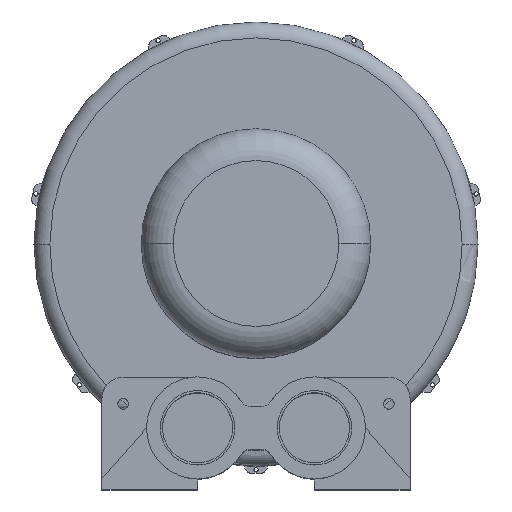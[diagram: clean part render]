
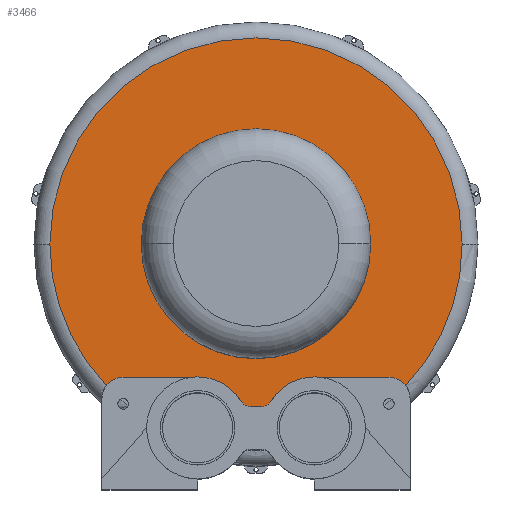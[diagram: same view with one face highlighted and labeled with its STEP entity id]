
A CAD part, top view. The second image highlights one B-rep face of the part: STEP entity #3466.
In plain terms, the highlighted planar face has unit normal (0, 0, 1).
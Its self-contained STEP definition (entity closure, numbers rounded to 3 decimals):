
#186 = DIRECTION ( 'NONE',  ( 0., 0., 1. ) ) ;
#288 = DIRECTION ( 'NONE',  ( 0., 0., 1. ) ) ;
#374 = DIRECTION ( 'NONE',  ( -1., 0., 0. ) ) ;
#396 = ORIENTED_EDGE ( 'NONE', *, *, #4098, .T. ) ;
#429 = FACE_OUTER_BOUND ( 'NONE', #1731, .T. ) ;
#436 = EDGE_CURVE ( 'NONE', #4498, #4835, #861, .T. ) ;
#453 = ORIENTED_EDGE ( 'NONE', *, *, #4588, .F. ) ;
#467 = CARTESIAN_POINT ( 'NONE',  ( 125., -125.5, 68. ) ) ;
#469 = CARTESIAN_POINT ( 'NONE',  ( -194., 0., 68. ) ) ;
#473 = CARTESIAN_POINT ( 'NONE',  ( 140.894, -133.36, 68. ) ) ;
#483 = ORIENTED_EDGE ( 'NONE', *, *, #4218, .F. ) ;
#615 = DIRECTION ( 'NONE',  ( 0., 0., 1. ) ) ;
#671 = VERTEX_POINT ( 'NONE', #925 ) ;
#678 = ORIENTED_EDGE ( 'NONE', *, *, #4475, .F. ) ;
#681 = CARTESIAN_POINT ( 'NONE',  ( -13.92, -148.672, 68. ) ) ;
#795 = CIRCLE ( 'NONE', #4136, 10. ) ;
#801 = CIRCLE ( 'NONE', #4908, 108. ) ;
#861 = CIRCLE ( 'NONE', #1310, 108. ) ;
#880 = AXIS2_PLACEMENT_3D ( 'NONE', #1025, #4106, #1790 ) ;
#922 = ORIENTED_EDGE ( 'NONE', *, *, #4284, .F. ) ;
#925 = CARTESIAN_POINT ( 'NONE',  ( 55., -125.5, 68. ) ) ;
#961 = CARTESIAN_POINT ( 'NONE',  ( 0., 0., 68. ) ) ;
#1017 = CARTESIAN_POINT ( 'NONE',  ( 5.361, -153.5, 68. ) ) ;
#1025 = CARTESIAN_POINT ( 'NONE',  ( 0., 0., 68. ) ) ;
#1053 = CARTESIAN_POINT ( 'NONE',  ( -55., -125.5, 68. ) ) ;
#1062 = DIRECTION ( 'NONE',  ( 0., 0., -1. ) ) ;
#1065 = CARTESIAN_POINT ( 'NONE',  ( 194., 0., 68. ) ) ;
#1156 = CARTESIAN_POINT ( 'NONE',  ( 125., -125.5, 68. ) ) ;
#1246 = VERTEX_POINT ( 'NONE', #467 ) ;
#1310 = AXIS2_PLACEMENT_3D ( 'NONE', #2897, #615, #3276 ) ;
#1330 = DIRECTION ( 'NONE',  ( 1., 0., 0. ) ) ;
#1338 = CARTESIAN_POINT ( 'NONE',  ( -140.894, -133.36, 68. ) ) ;
#1348 = CARTESIAN_POINT ( 'NONE',  ( -5.361, -143.5, 68. ) ) ;
#1438 = LINE ( 'NONE', #4865, #3357 ) ;
#1484 = DIRECTION ( 'NONE',  ( 0., 0., 1. ) ) ;
#1489 = LINE ( 'NONE', #2649, #2373 ) ;
#1529 = DIRECTION ( 'NONE',  ( -1., 0., 0. ) ) ;
#1576 = DIRECTION ( 'NONE',  ( 0., 0., 1. ) ) ;
#1649 = EDGE_LOOP ( 'NONE', ( #4851, #1797 ) ) ;
#1692 = AXIS2_PLACEMENT_3D ( 'NONE', #4314, #1986, #4726 ) ;
#1725 = DIRECTION ( 'NONE',  ( -1., 0., 0. ) ) ;
#1731 = EDGE_LOOP ( 'NONE', ( #396, #3943, #3304, #483, #922, #4663, #678, #2393, #453, #4510, #3855, #2216 ) ) ;
#1763 = DIRECTION ( 'NONE',  ( -1., 0., 0. ) ) ;
#1776 = VERTEX_POINT ( 'NONE', #473 ) ;
#1790 = DIRECTION ( 'NONE',  ( 1., 0., 0. ) ) ;
#1797 = ORIENTED_EDGE ( 'NONE', *, *, #436, .F. ) ;
#1820 = DIRECTION ( 'NONE',  ( 0., 0., 1. ) ) ;
#1846 = VECTOR ( 'NONE', #1529, 1000. ) ;
#1986 = DIRECTION ( 'NONE',  ( 0., 0., 1. ) ) ;
#2104 = VERTEX_POINT ( 'NONE', #469 ) ;
#2115 = DIRECTION ( 'NONE',  ( 0., 0., 1. ) ) ;
#2216 = ORIENTED_EDGE ( 'NONE', *, *, #4770, .F. ) ;
#2373 = VECTOR ( 'NONE', #374, 1000. ) ;
#2393 = ORIENTED_EDGE ( 'NONE', *, *, #4533, .F. ) ;
#2419 = VERTEX_POINT ( 'NONE', #2462 ) ;
#2429 = CARTESIAN_POINT ( 'NONE',  ( -55., -173.5, 68. ) ) ;
#2458 = VERTEX_POINT ( 'NONE', #1338 ) ;
#2462 = CARTESIAN_POINT ( 'NONE',  ( -5.361, -153.5, 68. ) ) ;
#2493 = CARTESIAN_POINT ( 'NONE',  ( 108., 0., 68. ) ) ;
#2558 = CARTESIAN_POINT ( 'NONE',  ( 0., 0., 68. ) ) ;
#2649 = CARTESIAN_POINT ( 'NONE',  ( -55., -125.5, 68. ) ) ;
#2841 = DIRECTION ( 'NONE',  ( -1., 0., 0. ) ) ;
#2897 = CARTESIAN_POINT ( 'NONE',  ( 0., 0., 68. ) ) ;
#2908 = LINE ( 'NONE', #1156, #1846 ) ;
#2962 = DIRECTION ( 'NONE',  ( 1., 0., 0. ) ) ;
#3014 = EDGE_CURVE ( 'NONE', #3507, #2104, #4072, .T. ) ;
#3146 = CARTESIAN_POINT ( 'NONE',  ( -108., 0., 68. ) ) ;
#3250 = FACE_BOUND ( 'NONE', #1649, .T. ) ;
#3276 = DIRECTION ( 'NONE',  ( 1., 0., 0. ) ) ;
#3304 = ORIENTED_EDGE ( 'NONE', *, *, #4162, .T. ) ;
#3329 = CARTESIAN_POINT ( 'NONE',  ( 13.92, -148.672, 68. ) ) ;
#3354 = CARTESIAN_POINT ( 'NONE',  ( 5.361, -143.5, 68. ) ) ;
#3357 = VECTOR ( 'NONE', #1763, 1000. ) ;
#3400 = CARTESIAN_POINT ( 'NONE',  ( -125., -125.5, 68. ) ) ;
#3466 = ADVANCED_FACE ( 'NONE', ( #3250, #429 ), #3726, .T. ) ;
#3470 = VERTEX_POINT ( 'NONE', #3329 ) ;
#3487 = AXIS2_PLACEMENT_3D ( 'NONE', #3885, #1576, #4279 ) ;
#3492 = VERTEX_POINT ( 'NONE', #1053 ) ;
#3507 = VERTEX_POINT ( 'NONE', #1065 ) ;
#3642 = DIRECTION ( 'NONE',  ( 0., 0., 1. ) ) ;
#3699 = AXIS2_PLACEMENT_3D ( 'NONE', #3791, #1484, #4172 ) ;
#3726 = PLANE ( 'NONE',  #880 ) ;
#3748 = DIRECTION ( 'NONE',  ( 1., 0., 0. ) ) ;
#3774 = CIRCLE ( 'NONE', #3699, 48. ) ;
#3791 = CARTESIAN_POINT ( 'NONE',  ( 55., -173.5, 68. ) ) ;
#3855 = ORIENTED_EDGE ( 'NONE', *, *, #4699, .F. ) ;
#3885 = CARTESIAN_POINT ( 'NONE',  ( 125., -145.5, 68. ) ) ;
#3897 = CIRCLE ( 'NONE', #4599, 20. ) ;
#3940 = AXIS2_PLACEMENT_3D ( 'NONE', #3354, #1062, #3748 ) ;
#3943 = ORIENTED_EDGE ( 'NONE', *, *, #3014, .T. ) ;
#4035 = EDGE_CURVE ( 'NONE', #4835, #4498, #801, .T. ) ;
#4039 = DIRECTION ( 'NONE',  ( 0., 0., -1. ) ) ;
#4072 = CIRCLE ( 'NONE', #1692, 194. ) ;
#4098 = EDGE_CURVE ( 'NONE', #1776, #3507, #4517, .T. ) ;
#4106 = DIRECTION ( 'NONE',  ( 0., 0., 1. ) ) ;
#4133 = VERTEX_POINT ( 'NONE', #1017 ) ;
#4136 = AXIS2_PLACEMENT_3D ( 'NONE', #1348, #4039, #1725 ) ;
#4139 = CARTESIAN_POINT ( 'NONE',  ( -125., -145.5, 68. ) ) ;
#4140 = CIRCLE ( 'NONE', #4704, 194. ) ;
#4162 = EDGE_CURVE ( 'NONE', #2104, #2458, #4140, .T. ) ;
#4172 = DIRECTION ( 'NONE',  ( 1., 0., 0. ) ) ;
#4195 = AXIS2_PLACEMENT_3D ( 'NONE', #2429, #186, #2841 ) ;
#4218 = EDGE_CURVE ( 'NONE', #4634, #2458, #3897, .T. ) ;
#4279 = DIRECTION ( 'NONE',  ( -1., 0., 0. ) ) ;
#4284 = EDGE_CURVE ( 'NONE', #3492, #4634, #1489, .T. ) ;
#4314 = CARTESIAN_POINT ( 'NONE',  ( 0., 0., 68. ) ) ;
#4394 = CIRCLE ( 'NONE', #3940, 10. ) ;
#4403 = EDGE_CURVE ( 'NONE', #4564, #3492, #4892, .T. ) ;
#4450 = CARTESIAN_POINT ( 'NONE',  ( 0., 0., 68. ) ) ;
#4475 = EDGE_CURVE ( 'NONE', #2419, #4564, #795, .T. ) ;
#4498 = VERTEX_POINT ( 'NONE', #2493 ) ;
#4510 = ORIENTED_EDGE ( 'NONE', *, *, #4627, .F. ) ;
#4517 = CIRCLE ( 'NONE', #4849, 194. ) ;
#4533 = EDGE_CURVE ( 'NONE', #4133, #2419, #1438, .T. ) ;
#4542 = DIRECTION ( 'NONE',  ( 1., 0., 0. ) ) ;
#4564 = VERTEX_POINT ( 'NONE', #681 ) ;
#4588 = EDGE_CURVE ( 'NONE', #3470, #4133, #4394, .T. ) ;
#4599 = AXIS2_PLACEMENT_3D ( 'NONE', #4139, #1820, #4542 ) ;
#4627 = EDGE_CURVE ( 'NONE', #671, #3470, #3774, .T. ) ;
#4634 = VERTEX_POINT ( 'NONE', #3400 ) ;
#4663 = ORIENTED_EDGE ( 'NONE', *, *, #4403, .F. ) ;
#4699 = EDGE_CURVE ( 'NONE', #1246, #671, #2908, .T. ) ;
#4704 = AXIS2_PLACEMENT_3D ( 'NONE', #2558, #288, #2962 ) ;
#4726 = DIRECTION ( 'NONE',  ( 1., 0., 0. ) ) ;
#4770 = EDGE_CURVE ( 'NONE', #1776, #1246, #4853, .T. ) ;
#4835 = VERTEX_POINT ( 'NONE', #3146 ) ;
#4849 = AXIS2_PLACEMENT_3D ( 'NONE', #4450, #2115, #4852 ) ;
#4851 = ORIENTED_EDGE ( 'NONE', *, *, #4035, .F. ) ;
#4852 = DIRECTION ( 'NONE',  ( 1., 0., 0. ) ) ;
#4853 = CIRCLE ( 'NONE', #3487, 20. ) ;
#4865 = CARTESIAN_POINT ( 'NONE',  ( 5.361, -153.5, 68. ) ) ;
#4892 = CIRCLE ( 'NONE', #4195, 48. ) ;
#4908 = AXIS2_PLACEMENT_3D ( 'NONE', #961, #3642, #1330 ) ;
